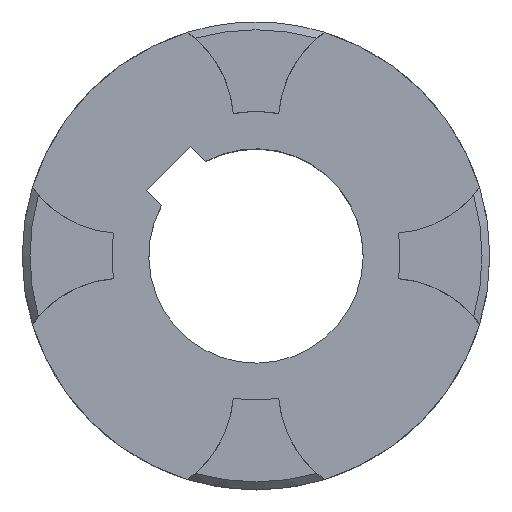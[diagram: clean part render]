
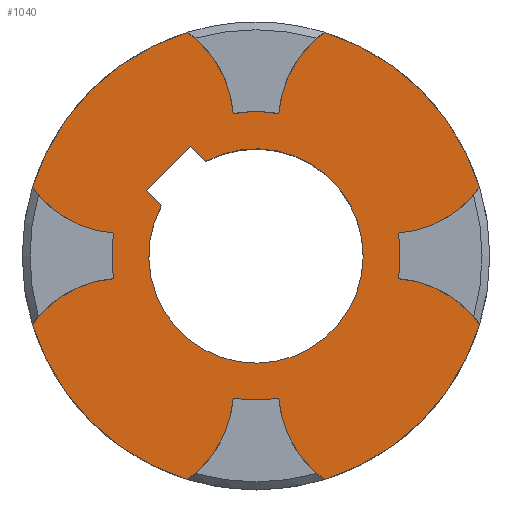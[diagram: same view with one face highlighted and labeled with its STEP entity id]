
A CAD part, top view. The second image highlights one B-rep face of the part: STEP entity #1040.
In plain terms, the highlighted planar face has unit normal (0, 0, 1).
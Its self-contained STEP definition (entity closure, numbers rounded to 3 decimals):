
#213=CARTESIAN_POINT('',(0.,0.,0.));
#214=DIRECTION('',(0.,0.,1.));
#215=DIRECTION('',(-0.987,0.158,0.));
#216=AXIS2_PLACEMENT_3D('',#213,#214,#215);
#248=CARTESIAN_POINT('',(0.,0.,0.));
#249=DIRECTION('',(0.,0.,1.));
#250=DIRECTION('',(0.987,-0.158,0.));
#251=AXIS2_PLACEMENT_3D('',#248,#249,#250);
#275=CARTESIAN_POINT('',(34.295,34.295,0.));
#276=DIRECTION('',(0.,0.,-1.));
#277=DIRECTION('',(0.809,-0.588,0.));
#278=AXIS2_PLACEMENT_3D('',#275,#276,#277);
#280=CARTESIAN_POINT('',(34.295,-34.295,0.));
#281=DIRECTION('',(0.,0.,-1.));
#282=DIRECTION('',(0.079,0.997,0.));
#283=AXIS2_PLACEMENT_3D('',#280,#281,#282);
#285=CARTESIAN_POINT('',(0.,0.,0.));
#286=DIRECTION('',(0.,0.,-1.));
#287=DIRECTION('',(0.956,-0.292,0.));
#288=AXIS2_PLACEMENT_3D('',#285,#286,#287);
#290=CARTESIAN_POINT('',(34.295,-34.295,0.));
#291=DIRECTION('',(0.,0.,-1.));
#292=DIRECTION('',(-0.588,-0.809,0.));
#293=AXIS2_PLACEMENT_3D('',#290,#291,#292);
#295=CARTESIAN_POINT('',(0.,0.,0.));
#296=DIRECTION('',(0.,0.,-1.));
#297=DIRECTION('',(0.158,-0.987,0.));
#298=AXIS2_PLACEMENT_3D('',#295,#296,#297);
#300=CARTESIAN_POINT('',(-34.295,-34.295,0.));
#301=DIRECTION('',(0.,0.,-1.));
#302=DIRECTION('',(0.997,-0.079,0.));
#303=AXIS2_PLACEMENT_3D('',#300,#301,#302);
#305=CARTESIAN_POINT('',(0.,0.,0.));
#306=DIRECTION('',(0.,0.,-1.));
#307=DIRECTION('',(-0.292,-0.956,0.));
#308=AXIS2_PLACEMENT_3D('',#305,#306,#307);
#310=CARTESIAN_POINT('',(-34.295,-34.295,0.));
#311=DIRECTION('',(0.,0.,-1.));
#312=DIRECTION('',(-0.809,0.588,0.));
#313=AXIS2_PLACEMENT_3D('',#310,#311,#312);
#315=CARTESIAN_POINT('',(-34.295,34.295,0.));
#316=DIRECTION('',(0.,0.,-1.));
#317=DIRECTION('',(-0.079,-0.997,0.));
#318=AXIS2_PLACEMENT_3D('',#315,#316,#317);
#320=CARTESIAN_POINT('',(0.,0.,0.));
#321=DIRECTION('',(0.,0.,-1.));
#322=DIRECTION('',(-0.956,0.292,0.));
#323=AXIS2_PLACEMENT_3D('',#320,#321,#322);
#325=CARTESIAN_POINT('',(-34.295,34.295,0.));
#326=DIRECTION('',(0.,0.,-1.));
#327=DIRECTION('',(0.588,0.809,0.));
#328=AXIS2_PLACEMENT_3D('',#325,#326,#327);
#330=CARTESIAN_POINT('',(0.,0.,0.));
#331=DIRECTION('',(0.,0.,-1.));
#332=DIRECTION('',(-0.158,0.987,0.));
#333=AXIS2_PLACEMENT_3D('',#330,#331,#332);
#335=CARTESIAN_POINT('',(34.295,34.295,0.));
#336=DIRECTION('',(0.,0.,-1.));
#337=DIRECTION('',(-0.997,0.079,0.));
#338=AXIS2_PLACEMENT_3D('',#335,#336,#337);
#340=CARTESIAN_POINT('',(0.,0.,0.));
#341=DIRECTION('',(0.,0.,-1.));
#342=DIRECTION('',(0.292,0.956,0.));
#343=AXIS2_PLACEMENT_3D('',#340,#341,#342);
#345=DIRECTION('',(-0.707,0.707,0.));
#346=VECTOR('',#345,5.489);
#347=CARTESIAN_POINT('',(-24.261,12.948,0.));
#348=LINE('',#347,#346);
#349=DIRECTION('',(0.707,-0.707,0.));
#350=VECTOR('',#349,5.489);
#351=CARTESIAN_POINT('',(-16.829,28.143,0.));
#352=LINE('',#351,#350);
#353=DIRECTION('',(0.707,0.707,0.));
#354=VECTOR('',#353,16.);
#355=CARTESIAN_POINT('',(-28.143,16.829,0.));
#356=LINE('',#355,#354);
#424=CARTESIAN_POINT('',(0.,0.,0.));
#425=DIRECTION('',(0.,0.,-1.));
#426=DIRECTION('',(-0.471,0.882,0.));
#427=AXIS2_PLACEMENT_3D('',#424,#425,#426);
#556=CARTESIAN_POINT('',(57.389,17.509,0.));
#558=VERTEX_POINT('',#556);
#560=CARTESIAN_POINT('',(17.509,57.389,0.));
#562=VERTEX_POINT('',#560);
#572=CARTESIAN_POINT('',(17.509,-57.389,0.));
#574=VERTEX_POINT('',#572);
#576=CARTESIAN_POINT('',(57.389,-17.509,0.));
#578=VERTEX_POINT('',#576);
#596=CARTESIAN_POINT('',(-57.389,-17.509,0.));
#598=VERTEX_POINT('',#596);
#600=CARTESIAN_POINT('',(-17.509,-57.389,0.));
#602=VERTEX_POINT('',#600);
#612=CARTESIAN_POINT('',(-17.509,57.389,0.));
#614=VERTEX_POINT('',#612);
#616=CARTESIAN_POINT('',(-57.389,17.509,0.));
#618=VERTEX_POINT('',#616);
#635=CARTESIAN_POINT('',(-5.834,36.537,0.));
#636=CARTESIAN_POINT('',(5.833,36.537,0.));
#637=VERTEX_POINT('',#635);
#638=VERTEX_POINT('',#636);
#639=CARTESIAN_POINT('',(5.834,-36.537,0.));
#640=CARTESIAN_POINT('',(-5.833,-36.537,0.));
#641=VERTEX_POINT('',#639);
#642=VERTEX_POINT('',#640);
#643=CARTESIAN_POINT('',(-36.537,5.834,0.));
#644=CARTESIAN_POINT('',(-36.537,-5.833,0.));
#645=VERTEX_POINT('',#643);
#646=VERTEX_POINT('',#644);
#647=CARTESIAN_POINT('',(36.537,-5.834,0.));
#648=CARTESIAN_POINT('',(36.537,5.833,0.));
#649=VERTEX_POINT('',#647);
#650=VERTEX_POINT('',#648);
#671=CARTESIAN_POINT('',(-24.261,12.948,0.));
#672=CARTESIAN_POINT('',(-28.143,16.829,0.));
#673=VERTEX_POINT('',#671);
#674=VERTEX_POINT('',#672);
#675=CARTESIAN_POINT('',(-16.829,28.143,0.));
#676=VERTEX_POINT('',#675);
#677=CARTESIAN_POINT('',(-12.948,24.261,0.));
#678=VERTEX_POINT('',#677);
#1000=CARTESIAN_POINT('',(0.,0.,0.));
#1001=DIRECTION('',(0.,0.,-1.));
#1002=DIRECTION('',(0.,-1.,0.));
#1003=AXIS2_PLACEMENT_3D('',#1000,#1001,#1002);
#1004=PLANE('',#1003);
#1006=ORIENTED_EDGE('',*,*,#1005,.T.);
#1007=ORIENTED_EDGE('',*,*,#975,.F.);
#1008=ORIENTED_EDGE('',*,*,#932,.T.);
#1009=ORIENTED_EDGE('',*,*,#829,.T.);
#1011=ORIENTED_EDGE('',*,*,#1010,.T.);
#1012=ORIENTED_EDGE('',*,*,#991,.T.);
#1014=ORIENTED_EDGE('',*,*,#1013,.T.);
#1015=ORIENTED_EDGE('',*,*,#732,.T.);
#1017=ORIENTED_EDGE('',*,*,#1016,.T.);
#1018=ORIENTED_EDGE('',*,*,#942,.F.);
#1020=ORIENTED_EDGE('',*,*,#1019,.T.);
#1021=ORIENTED_EDGE('',*,*,#724,.T.);
#1023=ORIENTED_EDGE('',*,*,#1022,.T.);
#1024=ORIENTED_EDGE('',*,*,#960,.T.);
#1026=ORIENTED_EDGE('',*,*,#1025,.T.);
#1027=ORIENTED_EDGE('',*,*,#837,.T.);
#1028=EDGE_LOOP('',(#1006,#1007,#1008,#1009,#1011,#1012,#1014,#1015,#1017,#1018,
#1020,#1021,#1023,#1024,#1026,#1027));
#1029=FACE_OUTER_BOUND('',#1028,.F.);
#1031=ORIENTED_EDGE('',*,*,#1030,.F.);
#1033=ORIENTED_EDGE('',*,*,#1032,.F.);
#1035=ORIENTED_EDGE('',*,*,#1034,.F.);
#1037=ORIENTED_EDGE('',*,*,#1036,.F.);
#1038=EDGE_LOOP('',(#1031,#1033,#1035,#1037));
#1039=FACE_BOUND('',#1038,.F.);
#1040=ADVANCED_FACE('',(#1029,#1039),#1004,.F.);
#217=CIRCLE('',#216,37.);
#252=CIRCLE('',#251,37.);
#279=CIRCLE('',#278,28.55);
#284=CIRCLE('',#283,28.55);
#289=CIRCLE('',#288,60.);
#294=CIRCLE('',#293,28.55);
#299=CIRCLE('',#298,37.);
#304=CIRCLE('',#303,28.55);
#309=CIRCLE('',#308,60.);
#314=CIRCLE('',#313,28.55);
#319=CIRCLE('',#318,28.55);
#324=CIRCLE('',#323,60.);
#329=CIRCLE('',#328,28.55);
#334=CIRCLE('',#333,37.);
#339=CIRCLE('',#338,28.55);
#344=CIRCLE('',#343,60.);
#428=CIRCLE('',#427,27.5);
#724=EDGE_CURVE('',#618,#614,#324,.T.);
#732=EDGE_CURVE('',#602,#598,#309,.T.);
#829=EDGE_CURVE('',#578,#574,#289,.T.);
#837=EDGE_CURVE('',#562,#558,#344,.T.);
#932=EDGE_CURVE('',#649,#578,#284,.T.);
#942=EDGE_CURVE('',#645,#646,#217,.T.);
#960=EDGE_CURVE('',#637,#638,#334,.T.);
#975=EDGE_CURVE('',#649,#650,#252,.T.);
#991=EDGE_CURVE('',#641,#642,#299,.T.);
#1005=EDGE_CURVE('',#558,#650,#279,.T.);
#1010=EDGE_CURVE('',#574,#641,#294,.T.);
#1013=EDGE_CURVE('',#642,#602,#304,.T.);
#1016=EDGE_CURVE('',#598,#646,#314,.T.);
#1019=EDGE_CURVE('',#645,#618,#319,.T.);
#1022=EDGE_CURVE('',#614,#637,#329,.T.);
#1025=EDGE_CURVE('',#638,#562,#339,.T.);
#1030=EDGE_CURVE('',#673,#674,#348,.T.);
#1032=EDGE_CURVE('',#678,#673,#428,.T.);
#1034=EDGE_CURVE('',#676,#678,#352,.T.);
#1036=EDGE_CURVE('',#674,#676,#356,.T.);
